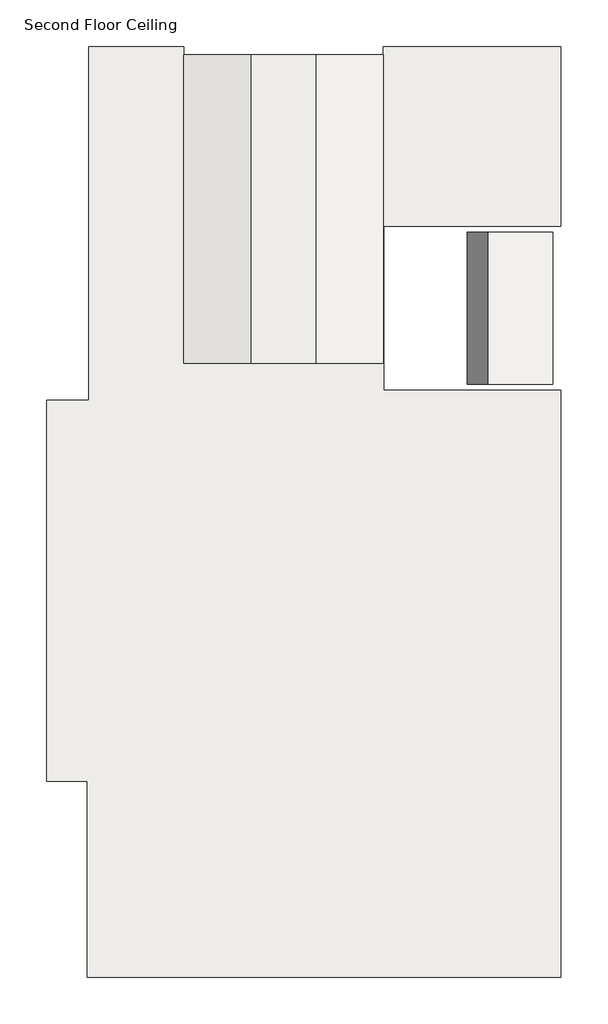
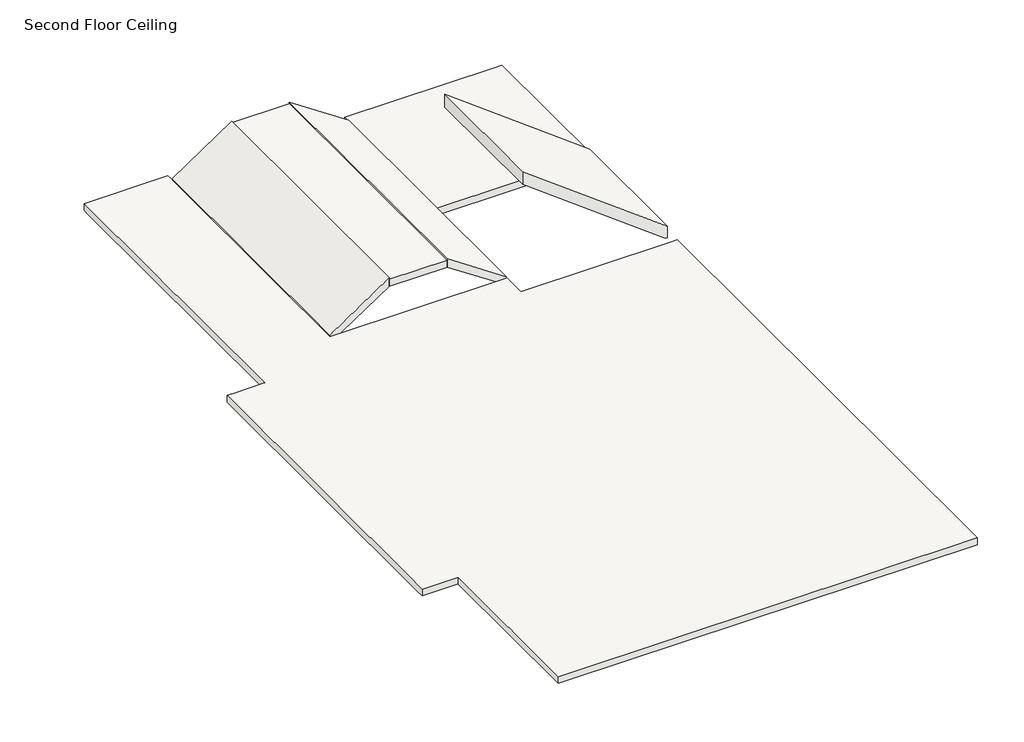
# One storey: 4 slabs, 1 roof.
"""IFC4 building model written with IfcOpenShell, lengths in millimetres."""

from ifc_helpers import new_model, si_unit, frame, origin, place, context, project, spatial, polyline, outline, extrude, faceted_brep, element, save

model = new_model("IFC4")

# Units and contexts
model_context = context("Model", 3, world=origin())
ifc_project = project(units=[si_unit("LENGTHUNIT", "METRE", prefix="MILLI")], contexts=[model_context])

# Site, building, storey
site = spatial("IfcSite", under=ifc_project)
building = spatial("IfcBuilding", under=site)
storey = spatial("IfcBuildingStorey", under=building, Name="Second Floor Ceiling", Elevation=5029.2)

# Roof
placement = place(None, origin())
element("IfcRoof", 1, ObjectType="Roof", at=placement, inside=storey, context=model_context, shape_type="SweptSolid", body=[
    extrude(outline(polyline([(5314.95, -1255.1230992), (7600.95, -4303.1230992), (7315.2, -4303.1230992), (5060.95, -1297.4564325), (5060.95, -1255.1230992), (5314.95, -1255.1230992)])), frame((0.0, 3932.0172697, 0.0), z_axis=(0.0, 1.0, 0.0), x_axis=(0.0, 0.0, 1.0)), (0.0, 0.0, 1.0), 2835.275),
])

# Slabs
element("IfcSlab", 2, ObjectType="Ceiling 10 inch", at=placement, inside=storey, context=model_context, shape_type="Brep", body=[
    faceted_brep([(-8144.8730992, 10234.3922697, 4876.8), (-8144.8730992, 10081.9922697, 4876.8), (-8144.8730992, 4322.5422697, 4876.8), (-4417.4230992, 4322.5422697, 4876.8), (-4417.4230992, 10081.9922697, 4876.8), (-4417.4230992, 10234.3922697, 4876.8), (-1255.1230992, 10234.3922697, 4876.8), (-1102.7230992, 10234.3922697, 4876.8), (-1102.7230992, 6881.5922697, 4876.8), (-1255.1230992, 6881.5922697, 4876.8), (-4407.8980992, 6881.5922697, 4876.8), (-4407.8980992, 3817.7172697, 4876.8), (-1255.1230992, 3817.7172697, 4876.8), (-1102.7230992, 3817.7172697, 4876.8), (-1102.7230992, -6986.8077303, 4876.8), (-1102.7230992, -7139.2077303, 4876.8), (-9789.5230992, -7139.2077303, 4876.8), (-9941.9230992, -7139.2077303, 4876.8), (-9941.9230992, -3510.1827303, 4876.8), (-9941.9230992, -3481.6077303, 4876.8), (-10703.9230992, -3481.6077303, 4876.8), (-10703.9230992, -3329.2077303, 4876.8), (-10703.9230992, 3636.7422697, 4876.8), (-10551.5230992, 3636.7422697, 4876.8), (-9941.9230992, 3636.7422697, 4876.8), (-9913.3480992, 3636.7422697, 4876.8), (-9913.3480992, 10081.9922697, 4876.8), (-9913.3480992, 10234.3922697, 4876.8), (-8144.8730992, 10234.3922697, 5029.2), (-9913.3480992, 10234.3922697, 5029.2), (-9913.3480992, 10081.9922697, 5029.2), (-9913.3480992, 3636.7422697, 5029.2), (-9941.9230992, 3636.7422697, 5029.2), (-10551.5230992, 3636.7422697, 5029.2), (-10703.9230992, 3636.7422697, 5029.2), (-10703.9230992, -3329.2077303, 5029.2), (-10703.9230992, -3481.6077303, 5029.2), (-9941.9230992, -3481.6077303, 5029.2), (-9941.9230992, -3510.1827303, 5029.2), (-9941.9230992, -7139.2077303, 5029.2), (-9789.5230992, -7139.2077303, 5029.2), (-1102.7230992, -7139.2077303, 5029.2), (-1102.7230992, -6986.8077303, 5029.2), (-1102.7230992, 3817.7172697, 5029.2), (-1255.1230992, 3817.7172697, 5029.2), (-4407.8980992, 3817.7172697, 5029.2), (-4407.8980992, 6881.5922697, 5029.2), (-1255.1230992, 6881.5922697, 5029.2), (-1102.7230992, 6881.5922697, 5029.2), (-1102.7230992, 10234.3922697, 5029.2), (-1255.1230992, 10234.3922697, 5029.2), (-4417.4230992, 10234.3922697, 5029.2), (-4417.4230992, 10081.9922697, 5029.2), (-4417.4230992, 4322.5422697, 5029.2), (-8144.8730992, 4322.5422697, 5029.2), (-8144.8730992, 10081.9922697, 5029.2)], [[[0, 1, 2, 3, 4, 5, 6, 7, 8, 9, 10, 11, 12, 13, 14, 15, 16, 17, 18, 19, 20, 21, 22, 23, 24, 25, 26, 27]], [[28, 29, 30, 31, 32, 33, 34, 35, 36, 37, 38, 39, 40, 41, 42, 43, 44, 45, 46, 47, 48, 49, 50, 51, 52, 53, 54, 55]], [[15, 14, 13, 43, 42, 41]], [[17, 16, 15, 41, 40, 39]], [[19, 18, 17, 39, 38, 37]], [[20, 19, 37, 36]], [[22, 21, 20, 36, 35, 34]], [[25, 24, 23, 22, 34, 33, 32, 31]], [[27, 26, 25, 31, 30, 29]], [[0, 27, 29, 28]], [[2, 1, 0, 28, 55, 54]], [[3, 2, 54, 53]], [[5, 4, 3, 53, 52, 51]], [[7, 6, 5, 51, 50, 49]], [[8, 7, 49, 48]], [[10, 9, 8, 48, 47, 46]], [[11, 10, 46, 45]], [[13, 12, 11, 45, 44, 43]]]),
])
element("IfcSlab", 3, ObjectType="Ceiling 10 inch", at=placement, inside=storey, context=model_context, shape_type="SweptSolid", body=[
    extrude(outline(polyline([(5712.8812081, -5671.5480992), (4876.7978748, -4417.4230992), (5059.9598796, -4417.4230992), (5896.0432129, -5671.5480992), (5712.8812081, -5671.5480992)])), frame((0.0, 4322.5422697, 0.0), z_axis=(0.0, 1.0, 0.0), x_axis=(0.0, 0.0, 1.0)), (0.0, 0.0, 1.0), 5759.45),
])
element("IfcSlab", 4, ObjectType="Ceiling 10 inch", at=placement, inside=storey, context=model_context, shape_type="SweptSolid", body=[
    extrude(outline(polyline([(4876.8288806, -8144.8730992), (5712.912214, -6890.7480992), (5896.0742188, -6890.7480992), (5059.9908854, -8144.8730992), (4876.8288806, -8144.8730992)])), frame((0.0, 4322.5422697, 0.0), z_axis=(0.0, 1.0, 0.0), x_axis=(0.0, 0.0, 1.0)), (0.0, 0.0, 1.0), 5759.45),
])
element("IfcSlab", 5, ObjectType="Ceiling 10 inch", at=placement, inside=storey, context=model_context, shape_type="SweptSolid", body=[
    extrude(outline(polyline([(-6890.7479056, 10081.9922697), (-5671.5479056, 10081.9922697), (-5671.5479056, 4322.5422697), (-6890.7479056, 4322.5422697), (-6890.7479056, 10081.9922697)])), frame((0.0, 0.0, 5712.9122664), z_axis=(0.0, 0.0, 1.0), x_axis=(1.0, 0.0, 0.0)), (0.0, 0.0, 1.0), 152.4),
])

save(model, "model.ifc")
